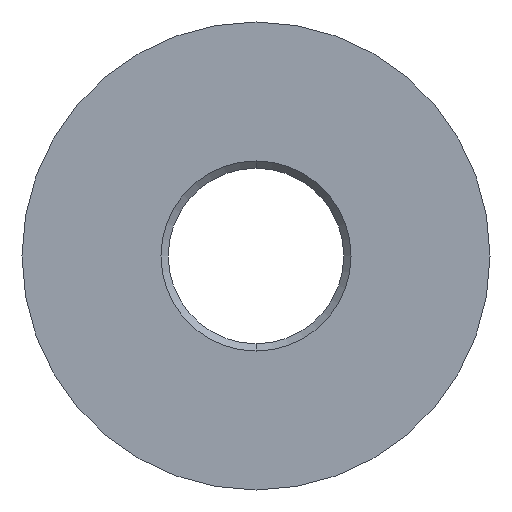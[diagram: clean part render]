
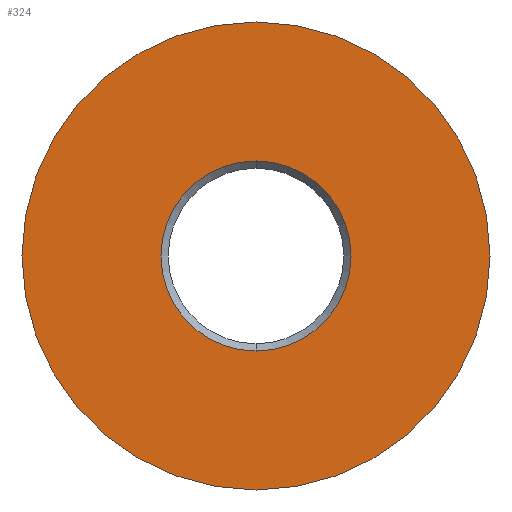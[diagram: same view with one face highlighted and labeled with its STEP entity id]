
A CAD part, front view. The second image highlights one B-rep face of the part: STEP entity #324.
In plain terms, the highlighted planar face has unit normal (0, -1, 0).
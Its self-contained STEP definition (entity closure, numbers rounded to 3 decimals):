
#18 = CARTESIAN_POINT ( 'NONE',  ( 0., -5., 0. ) ) ;
#26 = CARTESIAN_POINT ( 'NONE',  ( 0., -5., 3.25 ) ) ;
#27 = AXIS2_PLACEMENT_3D ( 'NONE', #198, #261, #183 ) ;
#50 = DIRECTION ( 'NONE',  ( 0., 0., -1. ) ) ;
#52 = AXIS2_PLACEMENT_3D ( 'NONE', #347, #203, #191 ) ;
#58 = AXIS2_PLACEMENT_3D ( 'NONE', #217, #270, #263 ) ;
#74 = DIRECTION ( 'NONE',  ( 0., -1., 0. ) ) ;
#87 = DIRECTION ( 'NONE',  ( 0., -1., 0. ) ) ;
#104 = VERTEX_POINT ( 'NONE', #116 ) ;
#116 = CARTESIAN_POINT ( 'NONE',  ( 0., -5., -8. ) ) ;
#117 = VERTEX_POINT ( 'NONE', #125 ) ;
#119 = VERTEX_POINT ( 'NONE', #144 ) ;
#125 = CARTESIAN_POINT ( 'NONE',  ( 0., -5., 8. ) ) ;
#142 = ORIENTED_EDGE ( 'NONE', *, *, #316, .T. ) ;
#144 = CARTESIAN_POINT ( 'NONE',  ( 0., -5., -3.25 ) ) ;
#152 = PLANE ( 'NONE',  #27 ) ;
#153 = CIRCLE ( 'NONE', #52, 8. ) ;
#160 = FACE_BOUND ( 'NONE', #219, .T. ) ;
#168 = VERTEX_POINT ( 'NONE', #26 ) ;
#183 = DIRECTION ( 'NONE',  ( 0., 0., 1. ) ) ;
#191 = DIRECTION ( 'NONE',  ( 0., 0., -1. ) ) ;
#198 = CARTESIAN_POINT ( 'NONE',  ( -3.25, -5., 0. ) ) ;
#203 = DIRECTION ( 'NONE',  ( 0., -1., 0. ) ) ;
#208 = EDGE_LOOP ( 'NONE', ( #142, #382 ) ) ;
#210 = CIRCLE ( 'NONE', #391, 3.25 ) ;
#211 = ORIENTED_EDGE ( 'NONE', *, *, #258, .F. ) ;
#217 = CARTESIAN_POINT ( 'NONE',  ( 0., -5., 0. ) ) ;
#219 = EDGE_LOOP ( 'NONE', ( #211, #249 ) ) ;
#249 = ORIENTED_EDGE ( 'NONE', *, *, #387, .F. ) ;
#258 = EDGE_CURVE ( 'NONE', #119, #168, #210, .T. ) ;
#261 = DIRECTION ( 'NONE',  ( 0., 1., 0. ) ) ;
#263 = DIRECTION ( 'NONE',  ( 0., 0., -1. ) ) ;
#267 = CIRCLE ( 'NONE', #58, 8. ) ;
#270 = DIRECTION ( 'NONE',  ( 0., -1., 0. ) ) ;
#278 = FACE_OUTER_BOUND ( 'NONE', #208, .T. ) ;
#310 = EDGE_CURVE ( 'NONE', #117, #104, #267, .T. ) ;
#316 = EDGE_CURVE ( 'NONE', #104, #117, #153, .T. ) ;
#324 = ADVANCED_FACE ( 'NONE', ( #160, #278 ), #152, .F. ) ;
#347 = CARTESIAN_POINT ( 'NONE',  ( 0., -5., 0. ) ) ;
#374 = CIRCLE ( 'NONE', #384, 3.25 ) ;
#382 = ORIENTED_EDGE ( 'NONE', *, *, #310, .T. ) ;
#384 = AXIS2_PLACEMENT_3D ( 'NONE', #394, #74, #389 ) ;
#387 = EDGE_CURVE ( 'NONE', #168, #119, #374, .T. ) ;
#389 = DIRECTION ( 'NONE',  ( 0., 0., -1. ) ) ;
#391 = AXIS2_PLACEMENT_3D ( 'NONE', #18, #87, #50 ) ;
#394 = CARTESIAN_POINT ( 'NONE',  ( 0., -5., 0. ) ) ;
